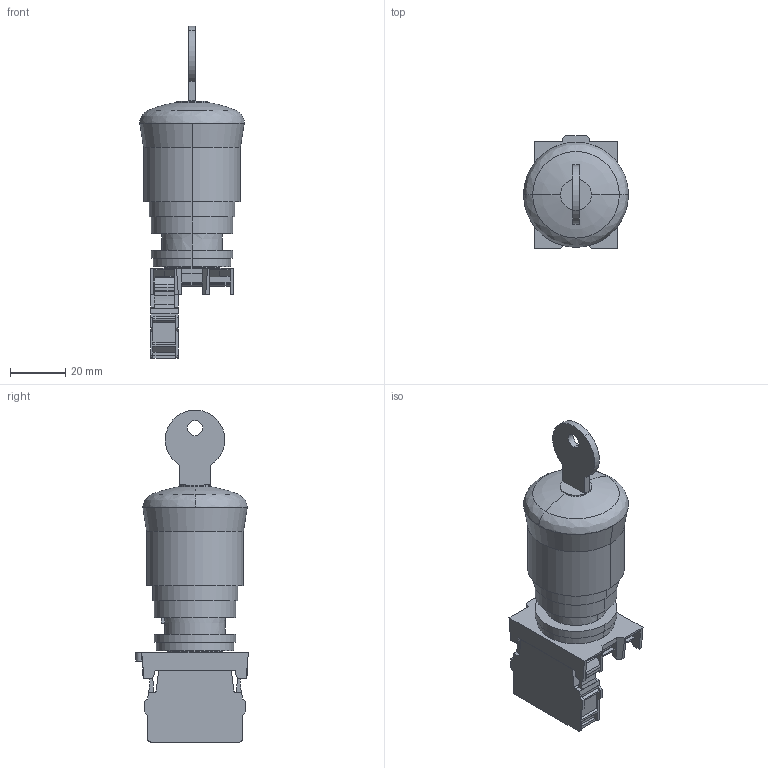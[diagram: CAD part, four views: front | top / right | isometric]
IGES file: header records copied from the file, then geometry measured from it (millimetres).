
Start section: Data from XPlus IGES,  Spatial Corp. Copyright (c) 1999-2004
Global section: file name: 216515.igs; native system:  By Spatial Corp.; preprocessor: XPlus ACIS/IGES 3.0; author: Noname; organization: Noname; date: 20120529.214044; units: millimetre
Bounding box: 38 x 40.8 x 120.1 mm (x, y, z)
Surface area: 17314.7 mm2 (no closed solid volume)
Topology: 0 solids, 0 shells, 351 faces, 1942 edges, 1942 vertices
Faces by surface type: extrusion 248, revolution 103
